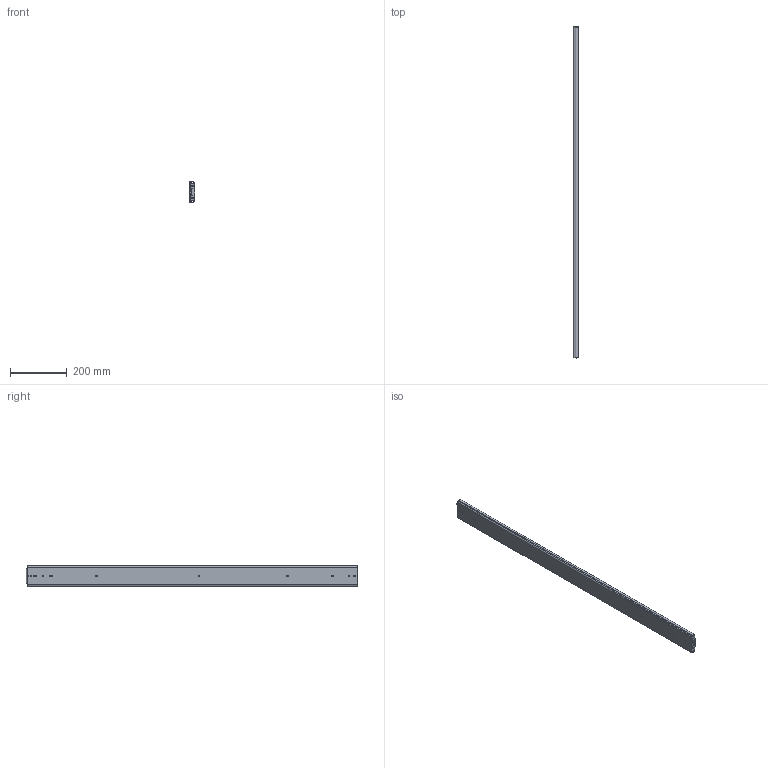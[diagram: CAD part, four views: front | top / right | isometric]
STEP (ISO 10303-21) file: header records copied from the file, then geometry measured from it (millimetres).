
FILE_DESCRIPTION(/* description */ ('Unknown'),/* implementation_level */ '2;1');
FILE_NAME(/* name */ '76J01-46 close',/* time_stamp */ '2024-07-26T16:41:16+08:00',/* author */ ('Unknown'),/* organization */ ('Unknown'),/* preprocessor_version */ 'ST-DEVELOPER v18.104',/* originating_system */ 'Solid Edge',/* authorisation */ 'Unknown');
FILE_SCHEMA (('AUTOMOTIVE_DESIGN {1 0 10303 214 3 1 1}'));
Length unit declared in the file: millimetre
Products named in the file (4): 76J01-46 close; 76J01 46 inch 內; 76J01 46 吋
Assembly tree (3 placements, depth 2):
  76J01-46 close
    76J01 46 inch 內
    76J01 46 吋
    76J01 46 吋
Bounding box: 19.3 x 1168.4 x 76.76 mm (x, y, z)
Volume: 921528.1 mm3; surface area: 573249.7 mm2
Topology: 3 solids, 3 shells, 196 faces, 605 edges, 409 vertices
Faces by surface type: plane 104, cylinder 92
Full cylindrical faces by diameter (mm): 5.2 x15, 7.1 x2
Entity records: 7180 total; most frequent: CARTESIAN_POINT 1166, DIRECTION 1155, ORIENTED_EDGE 1142, EDGE_CURVE 571, VERTEX_POINT 392, LINE 385, VECTOR 385, AXIS2_PLACEMENT_3D 385
